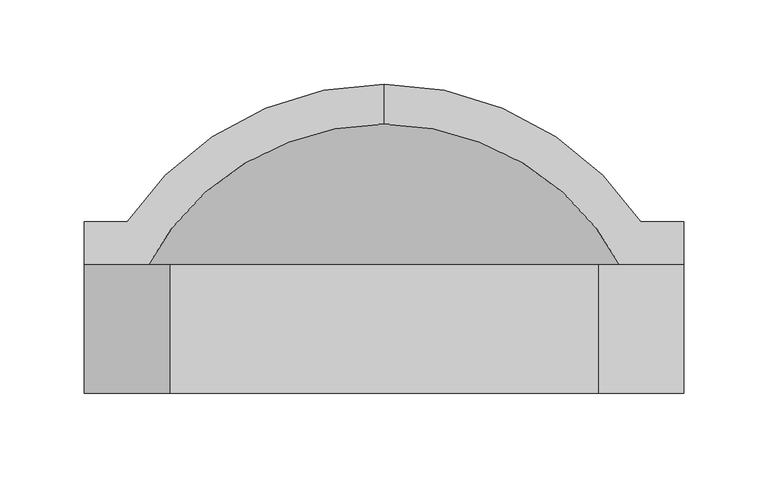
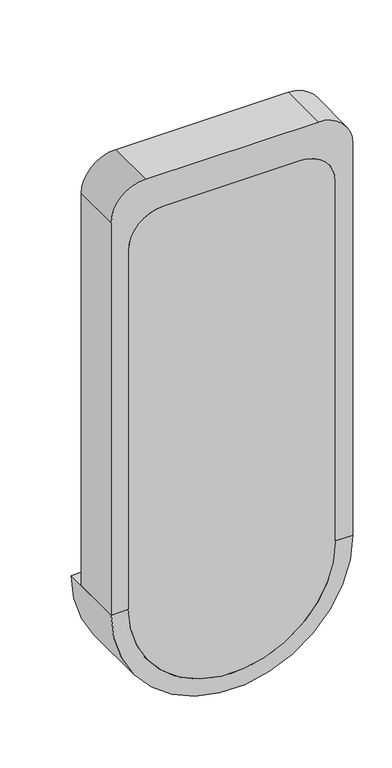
"""IFC4 building model written with IfcOpenShell, lengths in millimetres: flow terminal geometry, Urinoir - Mur : Urinoir - Mur."""

from ifc_helpers import new_model, si_unit, point, frame, frame_2d, origin, place, context, project, spatial, polyline, circle_curve, ellipse_curve, trimmed, segment, composite_curve, outline, extrude, source, transform, mapped, element, save
from ifc_brep_helpers import plane_surface, cylinder_surface, revolved_surface, advanced_brep


def flow_terminal_5b525c9b(model_context):
    return source(origin(), model_context, "Body", "SolidModel", [
        extrude(outline(composite_curve([segment(polyline([(610.0, 43.3254001), (610.0, 68.7254001), (1219.6, 68.7254001)]), True, "CONTINUOUS"), segment(trimmed(circle_curve(frame_2d((1219.6, 17.9254001)), 50.8), [point((1219.6, 68.7254001))], [point((1270.4, 17.9254001))], False, "CARTESIAN"), True, "CONTINUOUS"), segment(polyline([(1270.4, 17.9254001), (1270.4, -236.0745999)]), True, "CONTINUOUS"), segment(trimmed(circle_curve(frame_2d((1219.6, -236.0745999)), 50.8), [point((1270.4, -236.0745999))], [point((1219.6, -286.8745999))], False, "CARTESIAN"), True, "CONTINUOUS"), segment(polyline([(1219.6, -286.8745999), (610.0, -286.8745999), (610.0, -261.4745999), (1168.8, -261.4745999)]), True, "CONTINUOUS"), segment(trimmed(circle_curve(frame_2d((1168.8, -210.6745999)), 50.8), [point((1168.8, -261.4745999))], [point((1219.6, -210.6745999))], True, "CARTESIAN"), True, "CONTINUOUS"), segment(polyline([(1219.6, -210.6745999), (1219.6, -7.4745999)]), True, "CONTINUOUS"), segment(trimmed(circle_curve(frame_2d((1168.8, -7.4745999)), 50.8), [point((1219.6, -7.4745999))], [point((1168.8, 43.3254001))], True, "CARTESIAN"), True, "CONTINUOUS"), segment(polyline([(1168.8, 43.3254001), (610.0, 43.3254001)]), True, "CONTINUOUS")], self_intersect=False)), frame((0.0, 120.0, 0.0), z_axis=(0.0, 1.0, 0.0), x_axis=(0.0, 0.0, 1.0)), (0.0, 0.0, 1.0), 76.2),
        extrude(outline(composite_curve([segment(trimmed(circle_curve(frame_2d((1168.8, -7.4745999)), 50.8), [point((1168.8, 43.3254001))], [point((1219.6, -7.4745999))], False, "CARTESIAN"), True, "CONTINUOUS"), segment(polyline([(1219.6, -7.4745999), (1219.6, -210.6745999)]), True, "CONTINUOUS"), segment(trimmed(circle_curve(frame_2d((1168.8, -210.6745999)), 50.8), [point((1219.6, -210.6745999))], [point((1168.8, -261.4745999))], False, "CARTESIAN"), True, "CONTINUOUS"), segment(polyline([(1168.8, -261.4745999), (610.0, -261.4745999)]), True, "CONTINUOUS"), segment(trimmed(circle_curve(frame_2d((610.0, -109.0745999)), 152.4), [point((610.0, -261.4745999))], [point((610.0, 43.3254001))], False, "CARTESIAN"), True, "CONTINUOUS"), segment(polyline([(610.0, 43.3254001), (1168.8, 43.3254001)]), True, "CONTINUOUS")], self_intersect=False)), frame((0.0, 120.0, 0.0), z_axis=(0.0, 1.0, 0.0), x_axis=(0.0, 0.0, 1.0)), (0.0, 0.0, 1.0), 12.7),
        advanced_brep(
        [(-109.0745999, 303.1620048, 610.0), (-109.0745999, 279.4447043, 610.0), (43.3254001, 166.8706063, 610.0), (43.3254001, 120.0, 610.0), (68.7254001, 120.0, 610.0), (68.7254001, 221.6, 610.0), (43.3254001, 221.6, 610.0), (-261.4745999, 221.6, 610.0), (-286.8745999, 221.6, 610.0), (-286.8745999, 120.0, 610.0), (-261.4745999, 120.0, 610.0), (-261.4745999, 166.8706063, 610.0)],
        [
            (0, 1),
            (1, 2, circle_curve(frame((-109.0745999, 120.0, 610.0), z_axis=(0.0, 0.0, -1.0), x_axis=(1.0, 0.0, 0.0)), 159.4447043)),
            (2, 3),
            (3, 4),
            (4, 5),
            (5, 6),
            (6, 0, circle_curve(frame((-109.0745999, 120.0, 610.0), z_axis=(0.0, 0.0, 1.0), x_axis=(1.0, 0.0, 0.0)), 183.1620048)),
            (0, 7, circle_curve(frame((-109.0745999, 120.0, 610.0), z_axis=(0.0, 0.0, 1.0), x_axis=(-1.0, 0.0, 0.0)), 183.1620048)),
            (7, 8),
            (8, 9),
            (9, 10),
            (10, 11),
            (11, 1, circle_curve(frame((-109.0745999, 120.0, 610.0), z_axis=(0.0, 0.0, -1.0), x_axis=(-1.0, 0.0, 0.0)), 159.4447043)),
            (11, 2, circle_curve(frame((-109.0745999, 166.8706063, 610.0), z_axis=(0.0, -1.0, 0.0), x_axis=(1.0, 0.0, 0.0)), 152.4)),
            (10, 3, circle_curve(frame((-109.0745999, 120.0, 610.0), z_axis=(0.0, -1.0, 0.0), x_axis=(1.0, 0.0, 0.0)), 152.4)),
            (9, 4, circle_curve(frame((-109.0745999, 120.0, 610.0), z_axis=(0.0, -1.0, 0.0), x_axis=(1.0, 0.0, 0.0)), 177.8)),
            (8, 5, circle_curve(frame((-109.0745999, 221.6, 610.0), z_axis=(0.0, -1.0, 0.0), x_axis=(1.0, 0.0, 0.0)), 177.8)),
            (7, 6, circle_curve(frame((-109.0745999, 221.6, 610.0), z_axis=(0.0, -1.0, 0.0), x_axis=(1.0, 0.0, 0.0)), 152.4)),
        ],
        [
            plane_surface(frame((-109.0745999, 409.2104173, 610.0), z_axis=(0.0, 0.0, 1.0), x_axis=(1.0, 0.0, 0.0))),
            plane_surface(frame((-109.0745999, 409.2104173, 610.0), z_axis=(0.0, 0.0, 1.0), x_axis=(-1.0, 0.0, 0.0))),
            revolved_surface(trimmed(ellipse_curve(frame((-109.0745999, 120.0, 610.0), z_axis=(0.0, 0.0, -1.0), x_axis=(1.0, 0.0, 0.0)), 159.4447043, 159.4447043), [point((-109.0745999, 279.4447043, 610.0))], [point((43.3254001, 166.8706063, 610.0))], True, "CARTESIAN"), (-109.0745999, 409.2104173, 610.0), (0.0, 1.0, 0.0)),
            revolved_surface(polyline([(43.32540010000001, 166.8706063, 610.0), (43.32540010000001, 120.0, 610.0)]), (-109.0745999, 409.2104173, 610.0), (0.0, 1.0, 0.0)),
            plane_surface(frame((-109.0745999, 120.0, 610.0), z_axis=(0.0, -1.0, 0.0), x_axis=(1.0, 0.0, 0.0))),
            cylinder_surface(frame((-109.0745999, 409.2104173, 610.0), z_axis=(0.0, 1.0, 0.0), x_axis=(1.0, 0.0, 0.0)), 177.8),
            plane_surface(frame((-109.0745999, 221.6, 610.0), z_axis=(0.0, 1.0, 0.0), x_axis=(1.0, 0.0, 0.0))),
            revolved_surface(trimmed(ellipse_curve(frame((-109.0745999, 120.0, 610.0), z_axis=(0.0, 0.0, 1.0), x_axis=(1.0, 0.0, 0.0)), 183.1620048, 183.1620048), [point((43.3254001, 221.6, 610.0))], [point((-109.0745999, 303.1620048, 610.0))], True, "CARTESIAN"), (-109.0745999, 409.2104173, 610.0), (0.0, 1.0, 0.0)),
        ],
        [
            (0, [[1, 2, 3, 4, 5, 6, 7]]),
            (1, [[8, 9, 10, 11, 12, 13, -1]]),
            (2, [[14, -2, -13]]),
            (3, [[15, -3, -14, -12]]),
            (4, [[16, -4, -15, -11]]),
            (5, [[17, -5, -16, -10]]),
            (6, [[18, -6, -17, -9]]),
            (7, [[-7, -18, -8]]),
        ],
    ),
    ])


if __name__ == "__main__":
    model = new_model("IFC4")
    model_context = context("Model", 3, world=origin())
    ifc_project = project(units=[si_unit("LENGTHUNIT", "METRE", prefix="MILLI")], contexts=[model_context])
    site = spatial("IfcSite", under=ifc_project)
    building = spatial("IfcBuilding", under=site)
    placement = place(None, origin())
    flow_terminal_shape = flow_terminal_5b525c9b(model_context)
    element("IfcFlowTerminal", 1, ObjectType="Urinoir - Mur : Urinoir - Mur", at=placement, inside=building, context=model_context, shape_type="MappedRepresentation", body=[
        mapped(flow_terminal_shape, transform((0.0, 0.0, 0.0), x_axis=(1.0, 0.0, 0.0), y_axis=(0.0, 1.0, 0.0), z_axis=(0.0, 0.0, 1.0))),
    ])
    save(model, "model.ifc")
